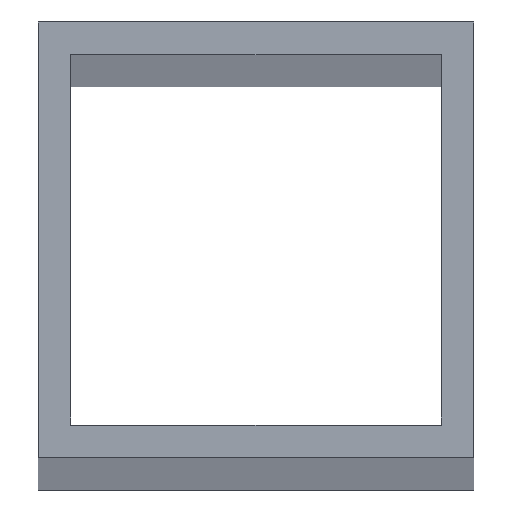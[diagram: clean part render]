
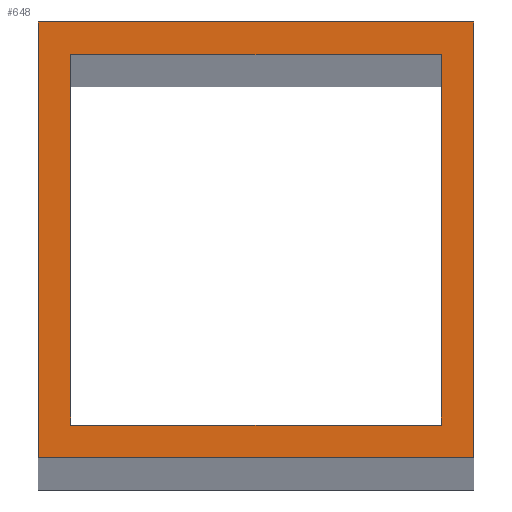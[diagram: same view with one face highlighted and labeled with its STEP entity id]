
A CAD part, top view. The second image highlights one B-rep face of the part: STEP entity #648.
In plain terms, the highlighted planar face has unit normal (0, 0, 1).
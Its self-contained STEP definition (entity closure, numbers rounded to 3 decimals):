
#24 = VERTEX_POINT('',#25);
#25 = CARTESIAN_POINT('',(-20.,-20.,1700.));
#32 = PLANE('',#33);
#33 = AXIS2_PLACEMENT_3D('',#34,#35,#36);
#34 = CARTESIAN_POINT('',(-20.,-20.,0.));
#35 = DIRECTION('',(0.,1.,0.));
#36 = DIRECTION('',(1.,0.,0.));
#44 = PLANE('',#45);
#45 = AXIS2_PLACEMENT_3D('',#46,#47,#48);
#46 = CARTESIAN_POINT('',(-20.,20.,0.));
#47 = DIRECTION('',(1.,0.,-0.));
#48 = DIRECTION('',(0.,-1.,0.));
#56 = EDGE_CURVE('',#24,#57,#59,.T.);
#57 = VERTEX_POINT('',#58);
#58 = CARTESIAN_POINT('',(20.,-20.,1700.));
#59 = SURFACE_CURVE('',#60,(#64,#71),.PCURVE_S1.);
#60 = LINE('',#61,#62);
#61 = CARTESIAN_POINT('',(-20.,-20.,1700.));
#62 = VECTOR('',#63,1.);
#63 = DIRECTION('',(1.,0.,0.));
#64 = PCURVE('',#32,#65);
#65 = DEFINITIONAL_REPRESENTATION('',(#66),#70);
#66 = LINE('',#67,#68);
#67 = CARTESIAN_POINT('',(0.,-1700.));
#68 = VECTOR('',#69,1.);
#69 = DIRECTION('',(1.,0.));
#70 = ( GEOMETRIC_REPRESENTATION_CONTEXT(2) 
PARAMETRIC_REPRESENTATION_CONTEXT() REPRESENTATION_CONTEXT('2D SPACE',''
  ) );
#71 = PCURVE('',#72,#77);
#72 = PLANE('',#73);
#73 = AXIS2_PLACEMENT_3D('',#74,#75,#76);
#74 = CARTESIAN_POINT('',(0.,0.,1700.));
#75 = DIRECTION('',(0.,0.,1.));
#76 = DIRECTION('',(1.,0.,-0.));
#77 = DEFINITIONAL_REPRESENTATION('',(#78),#82);
#78 = LINE('',#79,#80);
#79 = CARTESIAN_POINT('',(-20.,-20.));
#80 = VECTOR('',#81,1.);
#81 = DIRECTION('',(1.,0.));
#82 = ( GEOMETRIC_REPRESENTATION_CONTEXT(2) 
PARAMETRIC_REPRESENTATION_CONTEXT() REPRESENTATION_CONTEXT('2D SPACE',''
  ) );
#100 = PLANE('',#101);
#101 = AXIS2_PLACEMENT_3D('',#102,#103,#104);
#102 = CARTESIAN_POINT('',(20.,-20.,0.));
#103 = DIRECTION('',(-1.,0.,0.));
#104 = DIRECTION('',(0.,1.,0.));
#142 = EDGE_CURVE('',#57,#143,#145,.T.);
#143 = VERTEX_POINT('',#144);
#144 = CARTESIAN_POINT('',(20.,20.,1700.));
#145 = SURFACE_CURVE('',#146,(#150,#157),.PCURVE_S1.);
#146 = LINE('',#147,#148);
#147 = CARTESIAN_POINT('',(20.,-20.,1700.));
#148 = VECTOR('',#149,1.);
#149 = DIRECTION('',(0.,1.,0.));
#150 = PCURVE('',#100,#151);
#151 = DEFINITIONAL_REPRESENTATION('',(#152),#156);
#152 = LINE('',#153,#154);
#153 = CARTESIAN_POINT('',(0.,-1700.));
#154 = VECTOR('',#155,1.);
#155 = DIRECTION('',(1.,0.));
#156 = ( GEOMETRIC_REPRESENTATION_CONTEXT(2) 
PARAMETRIC_REPRESENTATION_CONTEXT() REPRESENTATION_CONTEXT('2D SPACE',''
  ) );
#157 = PCURVE('',#72,#158);
#158 = DEFINITIONAL_REPRESENTATION('',(#159),#163);
#159 = LINE('',#160,#161);
#160 = CARTESIAN_POINT('',(20.,-20.));
#161 = VECTOR('',#162,1.);
#162 = DIRECTION('',(0.,1.));
#163 = ( GEOMETRIC_REPRESENTATION_CONTEXT(2) 
PARAMETRIC_REPRESENTATION_CONTEXT() REPRESENTATION_CONTEXT('2D SPACE',''
  ) );
#181 = PLANE('',#182);
#182 = AXIS2_PLACEMENT_3D('',#183,#184,#185);
#183 = CARTESIAN_POINT('',(20.,20.,0.));
#184 = DIRECTION('',(0.,-1.,0.));
#185 = DIRECTION('',(-1.,0.,0.));
#218 = EDGE_CURVE('',#143,#219,#221,.T.);
#219 = VERTEX_POINT('',#220);
#220 = CARTESIAN_POINT('',(-20.,20.,1700.));
#221 = SURFACE_CURVE('',#222,(#226,#233),.PCURVE_S1.);
#222 = LINE('',#223,#224);
#223 = CARTESIAN_POINT('',(20.,20.,1700.));
#224 = VECTOR('',#225,1.);
#225 = DIRECTION('',(-1.,0.,0.));
#226 = PCURVE('',#181,#227);
#227 = DEFINITIONAL_REPRESENTATION('',(#228),#232);
#228 = LINE('',#229,#230);
#229 = CARTESIAN_POINT('',(0.,-1700.));
#230 = VECTOR('',#231,1.);
#231 = DIRECTION('',(1.,0.));
#232 = ( GEOMETRIC_REPRESENTATION_CONTEXT(2) 
PARAMETRIC_REPRESENTATION_CONTEXT() REPRESENTATION_CONTEXT('2D SPACE',''
  ) );
#233 = PCURVE('',#72,#234);
#234 = DEFINITIONAL_REPRESENTATION('',(#235),#239);
#235 = LINE('',#236,#237);
#236 = CARTESIAN_POINT('',(20.,20.));
#237 = VECTOR('',#238,1.);
#238 = DIRECTION('',(-1.,0.));
#239 = ( GEOMETRIC_REPRESENTATION_CONTEXT(2) 
PARAMETRIC_REPRESENTATION_CONTEXT() REPRESENTATION_CONTEXT('2D SPACE',''
  ) );
#289 = EDGE_CURVE('',#219,#24,#290,.T.);
#290 = SURFACE_CURVE('',#291,(#295,#302),.PCURVE_S1.);
#291 = LINE('',#292,#293);
#292 = CARTESIAN_POINT('',(-20.,20.,1700.));
#293 = VECTOR('',#294,1.);
#294 = DIRECTION('',(0.,-1.,0.));
#295 = PCURVE('',#44,#296);
#296 = DEFINITIONAL_REPRESENTATION('',(#297),#301);
#297 = LINE('',#298,#299);
#298 = CARTESIAN_POINT('',(0.,-1700.));
#299 = VECTOR('',#300,1.);
#300 = DIRECTION('',(1.,0.));
#301 = ( GEOMETRIC_REPRESENTATION_CONTEXT(2) 
PARAMETRIC_REPRESENTATION_CONTEXT() REPRESENTATION_CONTEXT('2D SPACE',''
  ) );
#302 = PCURVE('',#72,#303);
#303 = DEFINITIONAL_REPRESENTATION('',(#304),#308);
#304 = LINE('',#305,#306);
#305 = CARTESIAN_POINT('',(-20.,20.));
#306 = VECTOR('',#307,1.);
#307 = DIRECTION('',(0.,-1.));
#308 = ( GEOMETRIC_REPRESENTATION_CONTEXT(2) 
PARAMETRIC_REPRESENTATION_CONTEXT() REPRESENTATION_CONTEXT('2D SPACE',''
  ) );
#338 = VERTEX_POINT('',#339);
#339 = CARTESIAN_POINT('',(-17.,-17.,1700.));
#346 = PLANE('',#347);
#347 = AXIS2_PLACEMENT_3D('',#348,#349,#350);
#348 = CARTESIAN_POINT('',(-17.,-17.,0.));
#349 = DIRECTION('',(0.,1.,0.));
#350 = DIRECTION('',(1.,0.,0.));
#358 = PLANE('',#359);
#359 = AXIS2_PLACEMENT_3D('',#360,#361,#362);
#360 = CARTESIAN_POINT('',(-17.,17.,0.));
#361 = DIRECTION('',(1.,0.,-0.));
#362 = DIRECTION('',(0.,-1.,0.));
#370 = EDGE_CURVE('',#338,#371,#373,.T.);
#371 = VERTEX_POINT('',#372);
#372 = CARTESIAN_POINT('',(17.,-17.,1700.));
#373 = SURFACE_CURVE('',#374,(#378,#385),.PCURVE_S1.);
#374 = LINE('',#375,#376);
#375 = CARTESIAN_POINT('',(-17.,-17.,1700.));
#376 = VECTOR('',#377,1.);
#377 = DIRECTION('',(1.,0.,0.));
#378 = PCURVE('',#346,#379);
#379 = DEFINITIONAL_REPRESENTATION('',(#380),#384);
#380 = LINE('',#381,#382);
#381 = CARTESIAN_POINT('',(0.,-1700.));
#382 = VECTOR('',#383,1.);
#383 = DIRECTION('',(1.,0.));
#384 = ( GEOMETRIC_REPRESENTATION_CONTEXT(2) 
PARAMETRIC_REPRESENTATION_CONTEXT() REPRESENTATION_CONTEXT('2D SPACE',''
  ) );
#385 = PCURVE('',#72,#386);
#386 = DEFINITIONAL_REPRESENTATION('',(#387),#391);
#387 = LINE('',#388,#389);
#388 = CARTESIAN_POINT('',(-17.,-17.));
#389 = VECTOR('',#390,1.);
#390 = DIRECTION('',(1.,0.));
#391 = ( GEOMETRIC_REPRESENTATION_CONTEXT(2) 
PARAMETRIC_REPRESENTATION_CONTEXT() REPRESENTATION_CONTEXT('2D SPACE',''
  ) );
#409 = PLANE('',#410);
#410 = AXIS2_PLACEMENT_3D('',#411,#412,#413);
#411 = CARTESIAN_POINT('',(17.,-17.,0.));
#412 = DIRECTION('',(-1.,0.,0.));
#413 = DIRECTION('',(0.,1.,0.));
#446 = EDGE_CURVE('',#371,#447,#449,.T.);
#447 = VERTEX_POINT('',#448);
#448 = CARTESIAN_POINT('',(17.,17.,1700.));
#449 = SURFACE_CURVE('',#450,(#454,#461),.PCURVE_S1.);
#450 = LINE('',#451,#452);
#451 = CARTESIAN_POINT('',(17.,-17.,1700.));
#452 = VECTOR('',#453,1.);
#453 = DIRECTION('',(0.,1.,0.));
#454 = PCURVE('',#409,#455);
#455 = DEFINITIONAL_REPRESENTATION('',(#456),#460);
#456 = LINE('',#457,#458);
#457 = CARTESIAN_POINT('',(0.,-1700.));
#458 = VECTOR('',#459,1.);
#459 = DIRECTION('',(1.,0.));
#460 = ( GEOMETRIC_REPRESENTATION_CONTEXT(2) 
PARAMETRIC_REPRESENTATION_CONTEXT() REPRESENTATION_CONTEXT('2D SPACE',''
  ) );
#461 = PCURVE('',#72,#462);
#462 = DEFINITIONAL_REPRESENTATION('',(#463),#467);
#463 = LINE('',#464,#465);
#464 = CARTESIAN_POINT('',(17.,-17.));
#465 = VECTOR('',#466,1.);
#466 = DIRECTION('',(0.,1.));
#467 = ( GEOMETRIC_REPRESENTATION_CONTEXT(2) 
PARAMETRIC_REPRESENTATION_CONTEXT() REPRESENTATION_CONTEXT('2D SPACE',''
  ) );
#485 = PLANE('',#486);
#486 = AXIS2_PLACEMENT_3D('',#487,#488,#489);
#487 = CARTESIAN_POINT('',(17.,17.,0.));
#488 = DIRECTION('',(0.,-1.,0.));
#489 = DIRECTION('',(-1.,0.,0.));
#522 = EDGE_CURVE('',#447,#523,#525,.T.);
#523 = VERTEX_POINT('',#524);
#524 = CARTESIAN_POINT('',(-17.,17.,1700.));
#525 = SURFACE_CURVE('',#526,(#530,#537),.PCURVE_S1.);
#526 = LINE('',#527,#528);
#527 = CARTESIAN_POINT('',(17.,17.,1700.));
#528 = VECTOR('',#529,1.);
#529 = DIRECTION('',(-1.,0.,0.));
#530 = PCURVE('',#485,#531);
#531 = DEFINITIONAL_REPRESENTATION('',(#532),#536);
#532 = LINE('',#533,#534);
#533 = CARTESIAN_POINT('',(0.,-1700.));
#534 = VECTOR('',#535,1.);
#535 = DIRECTION('',(1.,0.));
#536 = ( GEOMETRIC_REPRESENTATION_CONTEXT(2) 
PARAMETRIC_REPRESENTATION_CONTEXT() REPRESENTATION_CONTEXT('2D SPACE',''
  ) );
#537 = PCURVE('',#72,#538);
#538 = DEFINITIONAL_REPRESENTATION('',(#539),#543);
#539 = LINE('',#540,#541);
#540 = CARTESIAN_POINT('',(17.,17.));
#541 = VECTOR('',#542,1.);
#542 = DIRECTION('',(-1.,0.));
#543 = ( GEOMETRIC_REPRESENTATION_CONTEXT(2) 
PARAMETRIC_REPRESENTATION_CONTEXT() REPRESENTATION_CONTEXT('2D SPACE',''
  ) );
#593 = EDGE_CURVE('',#523,#338,#594,.T.);
#594 = SURFACE_CURVE('',#595,(#599,#606),.PCURVE_S1.);
#595 = LINE('',#596,#597);
#596 = CARTESIAN_POINT('',(-17.,17.,1700.));
#597 = VECTOR('',#598,1.);
#598 = DIRECTION('',(0.,-1.,0.));
#599 = PCURVE('',#358,#600);
#600 = DEFINITIONAL_REPRESENTATION('',(#601),#605);
#601 = LINE('',#602,#603);
#602 = CARTESIAN_POINT('',(0.,-1700.));
#603 = VECTOR('',#604,1.);
#604 = DIRECTION('',(1.,0.));
#605 = ( GEOMETRIC_REPRESENTATION_CONTEXT(2) 
PARAMETRIC_REPRESENTATION_CONTEXT() REPRESENTATION_CONTEXT('2D SPACE',''
  ) );
#606 = PCURVE('',#72,#607);
#607 = DEFINITIONAL_REPRESENTATION('',(#608),#612);
#608 = LINE('',#609,#610);
#609 = CARTESIAN_POINT('',(-17.,17.));
#610 = VECTOR('',#611,1.);
#611 = DIRECTION('',(0.,-1.));
#612 = ( GEOMETRIC_REPRESENTATION_CONTEXT(2) 
PARAMETRIC_REPRESENTATION_CONTEXT() REPRESENTATION_CONTEXT('2D SPACE',''
  ) );
#648 = ADVANCED_FACE('',(#649,#655),#72,.T.);
#649 = FACE_BOUND('',#650,.T.);
#650 = EDGE_LOOP('',(#651,#652,#653,#654));
#651 = ORIENTED_EDGE('',*,*,#56,.T.);
#652 = ORIENTED_EDGE('',*,*,#142,.T.);
#653 = ORIENTED_EDGE('',*,*,#218,.T.);
#654 = ORIENTED_EDGE('',*,*,#289,.T.);
#655 = FACE_BOUND('',#656,.F.);
#656 = EDGE_LOOP('',(#657,#658,#659,#660));
#657 = ORIENTED_EDGE('',*,*,#370,.T.);
#658 = ORIENTED_EDGE('',*,*,#446,.T.);
#659 = ORIENTED_EDGE('',*,*,#522,.T.);
#660 = ORIENTED_EDGE('',*,*,#593,.T.);
